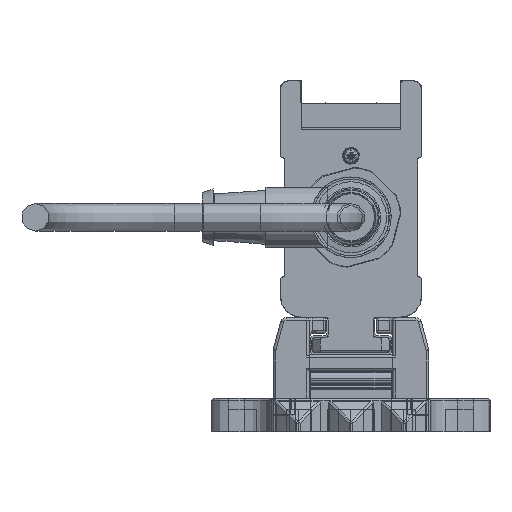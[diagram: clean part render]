
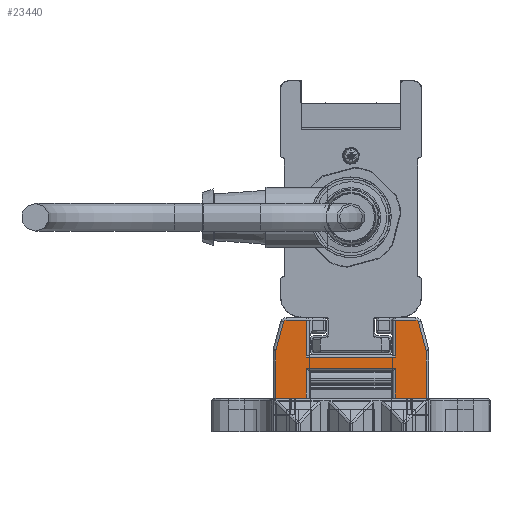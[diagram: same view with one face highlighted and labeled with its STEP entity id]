
A CAD part, left-side view. The second image highlights one B-rep face of the part: STEP entity #23440.
In plain terms, the highlighted planar face has unit normal (-1, 0, 0).
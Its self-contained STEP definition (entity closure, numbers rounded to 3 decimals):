
#23440=ADVANCED_FACE('', (#23450), #23460, .T.);
#165170=AXIS2_PLACEMENT_3D('Ax2Pl3d', #165180, #165190, #165200);
#165410=AXIS2_PLACEMENT_3D('Ax2Pl3d', #165420, #165430, #165440);
#170290=AXIS2_PLACEMENT_3D('Ax2Pl3d', #170300, #170310, #170320);
#175370=AXIS2_PLACEMENT_3D('Ax2Pl3d', #175380, #175390, #175400);
#185050=AXIS2_PLACEMENT_3D('Ax2Pl3d', #185060, #185070, #185080);
#714080=CARTESIAN_POINT('', (-747.669,-5286.345,
331.37));
#165180=CARTESIAN_POINT('HicPkt', (-747.669,-5285.379,
331.111));
#714090=CARTESIAN_POINT('', (-747.669,-5286.379,331.111)
);
#714100=CARTESIAN_POINT('', (-747.669,-5285.037,
336.255));
#714120=CARTESIAN_POINT('', (-747.669,-5285.037,
336.255));
#714150=CARTESIAN_POINT('', (-747.669,-5284.554,
336.625));
#165420=CARTESIAN_POINT('HicPkt', (-747.669,-5284.554,
336.125));
#714370=CARTESIAN_POINT('', (-747.669,-5286.379,322.625)
);
#714380=CARTESIAN_POINT('', (-747.669,-5280.881,322.625)
);
#714390=CARTESIAN_POINT('', (-747.669,-5280.881,322.625)
);
#714470=CARTESIAN_POINT('', (-747.669,-5264.881,322.625)
);
#714480=CARTESIAN_POINT('', (-747.669,-5259.383,322.625)
);
#714490=CARTESIAN_POINT('', (-747.669,-5259.383,322.625)
);
#170300=CARTESIAN_POINT('HicPkt', (-747.669,-5261.209,
336.125));
#716960=CARTESIAN_POINT('', (-747.669,-5260.726,
336.255));
#716970=CARTESIAN_POINT('', (-747.669,-5261.209,
336.625));
#716980=CARTESIAN_POINT('', (-747.669,-5280.881,
330.025));
#716990=CARTESIAN_POINT('', (-747.669,-5264.881,
330.025));
#717000=CARTESIAN_POINT('', (-747.669,-5280.881,
330.025));
#717160=CARTESIAN_POINT('', (-747.669,-5280.881,
328.005));
#717170=CARTESIAN_POINT('', (-747.669,-5264.881,
328.005));
#717180=CARTESIAN_POINT('', (-747.669,-5264.881,
328.005));
#717190=CARTESIAN_POINT('', (-747.669,-5280.881,
328.005));
#717210=CARTESIAN_POINT('', (-747.669,-5264.881,322.625)
);
#717220=CARTESIAN_POINT('', (-747.669,-5264.881,
330.025));
#717230=CARTESIAN_POINT('', (-747.669,-5264.881,
336.625));
#718080=CARTESIAN_POINT('', (-747.669,-5264.881,
336.625));
#718090=CARTESIAN_POINT('', (-747.669,-5260.726,
336.255));
#718100=CARTESIAN_POINT('', (-747.669,-5259.417,
331.37));
#718290=CARTESIAN_POINT('', (-747.669,-5259.383,331.111)
);
#718300=CARTESIAN_POINT('', (-747.669,-5259.383,331.111)
);
#175380=CARTESIAN_POINT('HicPkt', (-747.669,-5260.383,
331.111));
#719110=CARTESIAN_POINT('', (-747.669,-5286.379,331.111)
);
#185060=CARTESIAN_POINT('HicPkt', (-747.669,-5284.554,
336.625));
#720910=CARTESIAN_POINT('', (-747.669,-5280.881,
336.625));
#720920=CARTESIAN_POINT('', (-747.669,-5280.881,
336.625));
#720930=CARTESIAN_POINT('', (-747.669,-5280.881,
336.625));
#828200=CIRCLE('Circle', #165170, 1.);
#828240=CIRCLE('Circle', #165410, 0.5);
#828820=CIRCLE('Circle', #170290, 0.5);
#829350=CIRCLE('Circle', #175370, 1.);
#165190=DIRECTION('Axis', (-1.,0.,
0.));
#165200=DIRECTION('RefDirection', (0.,
0.,-1.));
#1155220=DIRECTION('', (0.,0.259,
0.966));
#165430=DIRECTION('Axis', (-1.,0.,
0.));
#165440=DIRECTION('RefDirection', (0.,
0.,-1.));
#1155330=DIRECTION('', (0.,1.,0.));
#1155370=DIRECTION('', (0.,1.,0.));
#170310=DIRECTION('Axis', (1.,0.,
0.));
#170320=DIRECTION('RefDirection', (0.,
0.,-1.));
#1156560=DIRECTION('', (0.,-1.,0.));
#1156660=DIRECTION('', (0.,1.,0.));
#1156670=DIRECTION('', (0.,0.,1.));
#1156690=DIRECTION('', (0.,0.,-1.));
#1156700=DIRECTION('', (0.,0.,-1.));
#1157130=DIRECTION('', (0.,-1.,0.))
;
#1157140=DIRECTION('', (0.,-0.259,0.966));
#1157230=DIRECTION('', (0.,0.,1.));
#175390=DIRECTION('Axis', (1.,0.,
0.));
#175400=DIRECTION('RefDirection', (0.,
0.,-1.));
#1157600=DIRECTION('', (0.,0.,1.));
#185070=DIRECTION('Axis', (-1.,0.,
0.));
#185080=DIRECTION('RefDirection', (0.,
0.,-1.));
#1158440=DIRECTION('', (0.,1.,0.));
#1158450=DIRECTION('', (0.,0.,1.));
#1233130=EDGE_CURVE('', #1233140, #1233120, #828200, .T.);
#1233190=EDGE_CURVE('', #1233120, #1233170, #1233200, .T.);
#1233260=EDGE_CURVE('', #1233170, #1233250, #828240, .T.);
#1233710=EDGE_CURVE('', #1233700, #1233720, #1233730, .T.);
#1233870=EDGE_CURVE('', #1233860, #1233880, #1233890, .T.);
#1238230=EDGE_CURVE('', #1238240, #1238250, #828820, .T.);
#1238280=EDGE_CURVE('', #1238290, #1238300, #1238310, .T.);
#1238650=EDGE_CURVE('', #1238630, #1238660, #1238670, .T.);
#1238700=EDGE_CURVE('', #1233720, #1238630, #1238710, .T.);
#1238740=EDGE_CURVE('', #1238660, #1233860, #1238750, .T.);
#1238760=EDGE_CURVE('', #1238770, #1238290, #1238780, .T.);
#1240600=EDGE_CURVE('', #1238250, #1238770, #1240610, .T.);
#1240670=EDGE_CURVE('', #1240680, #1238240, #1240690, .T.);
#1241110=EDGE_CURVE('', #1233880, #1241120, #1241130, .T.);
#1241150=EDGE_CURVE('', #1241120, #1240680, #829350, .T.);
#1242860=EDGE_CURVE('', #1233700, #1233140, #1242870, .T.);
#1246670=EDGE_CURVE('', #1233250, #1246680, #1246690, .T.);
#1246700=EDGE_CURVE('', #1238300, #1246680, #1246710, .T.);
#1483650=EDGE_LOOP('Edge_loop', (#1483660,#1483670,#1483680,#1483690,
#1483700,#1483710,#1483720,#1483730,#1483740,#1483750,#1483760,
#1483770,#1483780,#1483790,#1483800,#1483810,#1483820,#1483830));
#23450=FACE_OUTER_BOUND('Face_outer_bound', #1483650, .T.);
#1233200=LINE('Line', #714120, #1704690);
#1233730=LINE('Line', #714380, #1704800);
#1233890=LINE('Line', #714480, #1704840);
#1238310=LINE('Line', #716980, #1706030);
#1238670=LINE('Line', #717170, #1706130);
#1238710=LINE('Line', #717190, #1706140);
#1238750=LINE('Line', #717210, #1706160);
#1238780=LINE('Line', #717220, #1706170);
#1240610=LINE('Line', #718080, #1706600);
#1240690=LINE('Line', #718090, #1706610);
#1241130=LINE('Line', #718290, #1706700);
#1242870=LINE('Line', #719110, #1707070);
#1246690=LINE('Line', #720910, #1707910);
#1246710=LINE('Line', #720930, #1707920);
#1483660=ORIENTED_EDGE('', *, *, #1246670, .T.);
#1483670=ORIENTED_EDGE('', *, *, #1246700, .F.);
#1483680=ORIENTED_EDGE('', *, *, #1238280, .F.);
#1483690=ORIENTED_EDGE('', *, *, #1238760, .F.);
#1483700=ORIENTED_EDGE('', *, *, #1240600, .F.);
#1483710=ORIENTED_EDGE('', *, *, #1238230, .F.);
#1483720=ORIENTED_EDGE('', *, *, #1240670, .F.);
#1483730=ORIENTED_EDGE('', *, *, #1241150, .F.);
#1483740=ORIENTED_EDGE('', *, *, #1241110, .F.);
#1483750=ORIENTED_EDGE('', *, *, #1233870, .F.);
#1483760=ORIENTED_EDGE('', *, *, #1238740, .F.);
#1483770=ORIENTED_EDGE('', *, *, #1238650, .F.);
#1483780=ORIENTED_EDGE('', *, *, #1238700, .F.);
#1483790=ORIENTED_EDGE('', *, *, #1233710, .F.);
#1483800=ORIENTED_EDGE('', *, *, #1242860, .T.);
#1483810=ORIENTED_EDGE('', *, *, #1233130, .T.);
#1483820=ORIENTED_EDGE('', *, *, #1233190, .T.);
#1483830=ORIENTED_EDGE('', *, *, #1233260, .T.);
#23460=PLANE('Plane', #185050);
#1704690=VECTOR('', #1155220, 5.057);
#1704800=VECTOR('', #1155330, 5.498);
#1704840=VECTOR('', #1155370, 5.498);
#1706030=VECTOR('', #1156560, 16.);
#1706130=VECTOR('', #1156660, 16.);
#1706140=VECTOR('', #1156670, 5.38);
#1706160=VECTOR('', #1156690, 5.38);
#1706170=VECTOR('', #1156700, 6.6);
#1706600=VECTOR('', #1157130, 3.672);
#1706610=VECTOR('', #1157140, 5.057);
#1706700=VECTOR('', #1157230, 8.486);
#1707070=VECTOR('', #1157600, 8.486);
#1707910=VECTOR('', #1158440, 3.672);
#1707920=VECTOR('', #1158450, 6.6);
#1233120=VERTEX_POINT('', #714080);
#1233140=VERTEX_POINT('', #714090);
#1233170=VERTEX_POINT('', #714100);
#1233250=VERTEX_POINT('', #714150);
#1233700=VERTEX_POINT('', #714370);
#1233720=VERTEX_POINT('', #714390);
#1233860=VERTEX_POINT('', #714470);
#1233880=VERTEX_POINT('', #714490);
#1238240=VERTEX_POINT('', #716960);
#1238250=VERTEX_POINT('', #716970);
#1238290=VERTEX_POINT('', #716990);
#1238300=VERTEX_POINT('', #717000);
#1238630=VERTEX_POINT('', #717160);
#1238660=VERTEX_POINT('', #717180);
#1238770=VERTEX_POINT('', #717230);
#1240680=VERTEX_POINT('', #718100);
#1241120=VERTEX_POINT('', #718300);
#1246680=VERTEX_POINT('', #720920);
